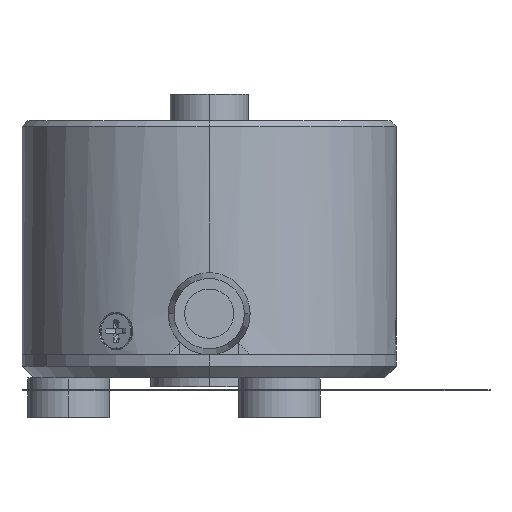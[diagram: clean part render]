
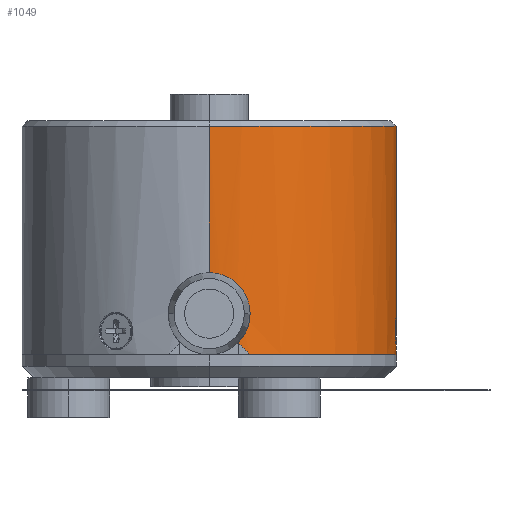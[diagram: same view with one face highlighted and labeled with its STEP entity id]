
A CAD part, left-side view. The second image highlights one B-rep face of the part: STEP entity #1049.
In plain terms, the highlighted cylindrical face has radius 16 mm (diameter 32 mm), a partial arc.
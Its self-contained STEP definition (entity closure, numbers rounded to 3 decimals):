
#1049=ADVANCED_FACE('',(#1499,#1500),#1501,.T.);
#1499=FACE_OUTER_BOUND('',#2314,.T.);
#1500=FACE_BOUND('',#2315,.T.);
#1501=CYLINDRICAL_SURFACE('',#2316,16.0);
#2314=EDGE_LOOP('',(#3555,#3556,#3557,#3558,#3559,#3560,#3561));
#2315=EDGE_LOOP('',(#3562,#3563));
#2316=AXIS2_PLACEMENT_3D('',#3564,#3565,#3566);
#3555=ORIENTED_EDGE('',*,*,#6124,.F.);
#3556=ORIENTED_EDGE('',*,*,#6125,.T.);
#3557=ORIENTED_EDGE('',*,*,#6126,.T.);
#3558=ORIENTED_EDGE('',*,*,#6127,.T.);
#3559=ORIENTED_EDGE('',*,*,#6128,.T.);
#3560=ORIENTED_EDGE('',*,*,#6129,.F.);
#3561=ORIENTED_EDGE('',*,*,#6096,.T.);
#3562=ORIENTED_EDGE('',*,*,#6130,.T.);
#3563=ORIENTED_EDGE('',*,*,#6131,.T.);
#3564=CARTESIAN_POINT('',(0.0,0.0,22.0));
#3565=DIRECTION('',(0.0,-0.0,1.0));
#3566=DIRECTION('',(-1.0,0.0,0.0));
#6096=EDGE_CURVE('',#7067,#7064,#7068,.F.);
#6124=EDGE_CURVE('',#7114,#7064,#7115,.T.);
#6125=EDGE_CURVE('',#7114,#7116,#7117,.T.);
#6126=EDGE_CURVE('',#7116,#7118,#7119,.T.);
#6127=EDGE_CURVE('',#7118,#7120,#7121,.T.);
#6128=EDGE_CURVE('',#7120,#7122,#7123,.T.);
#6129=EDGE_CURVE('',#7067,#7122,#7124,.T.);
#6130=EDGE_CURVE('',#7125,#7126,#7127,.T.);
#6131=EDGE_CURVE('',#7126,#7125,#7128,.T.);
#7064=VERTEX_POINT('',#8667);
#7067=VERTEX_POINT('',#8671);
#7068=CIRCLE('',#8672,16.0);
#7114=VERTEX_POINT('',#8793);
#7115=LINE('',#8794,#8795);
#7116=VERTEX_POINT('',#8796);
#7117=B_SPLINE_CURVE_WITH_KNOTS('',3,(#8797,#8798,#8799,#8800,#8801,#8802,#8803,#8804,#8805,#8806,#8807,#8808,#8809,#8810,#8811,#8812,#8813,#8814,#8815,#8816,#8817,#8818,#8819,#8820,#8821,#8822,#8823,#8824,#8825,#8826,#8827,#8828,#8829,#8830),.UNSPECIFIED.,.F.,.F.,(4,2,2,2,2,2,2,2,2,2,2,2,2,2,2,2,4),(0.0,0.,0.001,0.001,0.002,0.002,0.003,0.003,0.004,0.004,0.005,0.005,0.006,0.006,0.007,0.007,0.008),.UNSPECIFIED.);
#7118=VERTEX_POINT('',#8831);
#7119=LINE('',#8832,#8833);
#7120=VERTEX_POINT('',#8834);
#7121=ELLIPSE('',#8835,22.627,16.0);
#7122=VERTEX_POINT('',#8836);
#7123=CIRCLE('',#8837,16.0);
#7124=LINE('',#8838,#8839);
#7125=VERTEX_POINT('',#8840);
#7126=VERTEX_POINT('',#8841);
#7127=B_SPLINE_CURVE_WITH_KNOTS('',3,(#8842,#8843,#8844,#8845,#8846,#8847,#8848,#8849,#8850,#8851,#8852,#8853,#8854,#8855,#8856),.UNSPECIFIED.,.F.,.F.,(4,1,1,1,1,1,1,1,1,1,1,1,4),(0.,0.041,0.082,0.124,0.166,0.207,0.25,0.293,0.334,0.376,0.438,0.5,0.5),.UNSPECIFIED.);
#7128=B_SPLINE_CURVE_WITH_KNOTS('',3,(#8857,#8858,#8859,#8860,#8861,#8862,#8863,#8864,#8865,#8866,#8867,#8868,#8869,#8870,#8871),.UNSPECIFIED.,.F.,.F.,(4,1,1,1,1,1,1,1,1,1,1,1,4),(0.5,0.541,0.581,0.624,0.666,0.707,0.75,0.793,0.834,0.876,0.918,0.959,1.),.UNSPECIFIED.);
#8667=CARTESIAN_POINT('',(-16.0,0.,21.5));
#8671=CARTESIAN_POINT('',(16.0,0.0,21.5));
#8672=AXIS2_PLACEMENT_3D('',#11176,#11177,#11178);
#8793=CARTESIAN_POINT('',(-16.,0.,8.));
#8794=CARTESIAN_POINT('',(-16.0,0.,11.75));
#8795=VECTOR('',#11231,1.0);
#8796=CARTESIAN_POINT('',(-15.803,-2.5,5.5));
#8797=CARTESIAN_POINT('',(-15.803,2.5,5.5));
#8798=CARTESIAN_POINT('',(-15.803,2.5,5.665));
#8799=CARTESIAN_POINT('',(-15.806,2.484,5.828));
#8800=CARTESIAN_POINT('',(-15.816,2.42,6.148));
#8801=CARTESIAN_POINT('',(-15.823,2.372,6.307));
#8802=CARTESIAN_POINT('',(-15.842,2.246,6.609));
#8803=CARTESIAN_POINT('',(-15.852,2.17,6.753));
#8804=CARTESIAN_POINT('',(-15.876,1.988,7.024));
#8805=CARTESIAN_POINT('',(-15.889,1.883,7.153));
#8806=CARTESIAN_POINT('',(-15.915,1.653,7.383));
#8807=CARTESIAN_POINT('',(-15.928,1.527,7.486));
#8808=CARTESIAN_POINT('',(-15.951,1.254,7.669));
#8809=CARTESIAN_POINT('',(-15.962,1.109,7.747));
#8810=CARTESIAN_POINT('',(-15.98,0.808,7.871));
#8811=CARTESIAN_POINT('',(-15.988,0.65,7.92));
#8812=CARTESIAN_POINT('',(-15.997,0.328,7.984));
#8813=CARTESIAN_POINT('',(-16.,0.165,8.));
#8814=CARTESIAN_POINT('',(-16.,-0.161,8.));
#8815=CARTESIAN_POINT('',(-15.997,-0.327,7.984));
#8816=CARTESIAN_POINT('',(-15.988,-0.648,7.92));
#8817=CARTESIAN_POINT('',(-15.981,-0.804,7.873));
#8818=CARTESIAN_POINT('',(-15.962,-1.107,7.748));
#8819=CARTESIAN_POINT('',(-15.951,-1.253,7.669));
#8820=CARTESIAN_POINT('',(-15.928,-1.524,7.489));
#8821=CARTESIAN_POINT('',(-15.915,-1.65,7.385));
#8822=CARTESIAN_POINT('',(-15.889,-1.883,7.152));
#8823=CARTESIAN_POINT('',(-15.876,-1.987,7.027));
#8824=CARTESIAN_POINT('',(-15.853,-2.168,6.756));
#8825=CARTESIAN_POINT('',(-15.842,-2.246,6.61));
#8826=CARTESIAN_POINT('',(-15.823,-2.372,6.308));
#8827=CARTESIAN_POINT('',(-15.816,-2.419,6.152));
#8828=CARTESIAN_POINT('',(-15.806,-2.483,5.831));
#8829=CARTESIAN_POINT('',(-15.803,-2.5,5.665));
#8830=CARTESIAN_POINT('',(-15.803,-2.5,5.5));
#8831=CARTESIAN_POINT('',(-15.803,-2.5,3.0));
#8832=CARTESIAN_POINT('',(-15.803,-2.5,22.0));
#8833=VECTOR('',#11232,1000.0);
#8834=CARTESIAN_POINT('',(-15.612,-3.5,2.0));
#8835=AXIS2_PLACEMENT_3D('',#11233,#11234,#11235);
#8836=CARTESIAN_POINT('',(16.0,0.,2.0));
#8837=AXIS2_PLACEMENT_3D('',#11236,#11237,#11238);
#8838=CARTESIAN_POINT('',(16.0,0.,11.75));
#8839=VECTOR('',#11239,1.0);
#8840=CARTESIAN_POINT('',(-1.652,-15.915,4.));
#8841=CARTESIAN_POINT('',(1.652,-15.915,3.997));
#8842=CARTESIAN_POINT('',(-1.652,-15.915,4.));
#8843=CARTESIAN_POINT('',(-1.652,-15.915,4.142));
#8844=CARTESIAN_POINT('',(-1.618,-15.918,4.421));
#8845=CARTESIAN_POINT('',(-1.45,-15.935,4.813));
#8846=CARTESIAN_POINT('',(-1.179,-15.958,5.144));
#8847=CARTESIAN_POINT('',(-0.837,-15.98,5.407));
#8848=CARTESIAN_POINT('',(-0.433,-15.996,5.568));
#8849=CARTESIAN_POINT('',(-0.001,-16.002,5.616));
#8850=CARTESIAN_POINT('',(0.432,-15.996,5.568));
#8851=CARTESIAN_POINT('',(0.836,-15.98,5.407));
#8852=CARTESIAN_POINT('',(1.232,-15.954,5.104));
#8853=CARTESIAN_POINT('',(1.574,-15.923,4.636));
#8854=CARTESIAN_POINT('',(1.651,-15.915,4.209));
#8855=CARTESIAN_POINT('',(1.652,-15.915,3.998));
#8856=CARTESIAN_POINT('',(1.652,-15.915,3.997));
#8857=CARTESIAN_POINT('',(1.652,-15.915,3.997));
#8858=CARTESIAN_POINT('',(1.652,-15.914,3.856));
#8859=CARTESIAN_POINT('',(1.618,-15.918,3.579));
#8860=CARTESIAN_POINT('',(1.45,-15.935,3.186));
#8861=CARTESIAN_POINT('',(1.178,-15.958,2.856));
#8862=CARTESIAN_POINT('',(0.836,-15.98,2.593));
#8863=CARTESIAN_POINT('',(0.432,-15.996,2.432));
#8864=CARTESIAN_POINT('',(-0.001,-16.002,2.384));
#8865=CARTESIAN_POINT('',(-0.433,-15.996,2.432));
#8866=CARTESIAN_POINT('',(-0.837,-15.98,2.593));
#8867=CARTESIAN_POINT('',(-1.179,-15.958,2.856));
#8868=CARTESIAN_POINT('',(-1.45,-15.935,3.187));
#8869=CARTESIAN_POINT('',(-1.619,-15.918,3.579));
#8870=CARTESIAN_POINT('',(-1.652,-15.915,3.858));
#8871=CARTESIAN_POINT('',(-1.652,-15.915,4.));
#11176=CARTESIAN_POINT('',(0.0,0.0,21.5));
#11177=DIRECTION('',(0.0,0.0,1.0));
#11178=DIRECTION('',(1.0,0.0,0.0));
#11231=DIRECTION('',(0.0,-0.0,1.0));
#11232=DIRECTION('',(0.0,0.0,-1.0));
#11233=CARTESIAN_POINT('',(0.0,0.0,5.5));
#11234=DIRECTION('',(0.0,-0.707,0.707));
#11235=DIRECTION('',(0.0,-0.707,-0.707));
#11236=CARTESIAN_POINT('',(0.0,0.0,2.0));
#11237=DIRECTION('',(0.0,0.0,1.0));
#11238=DIRECTION('',(1.0,0.0,0.0));
#11239=DIRECTION('',(0.0,-0.0,-1.0));
